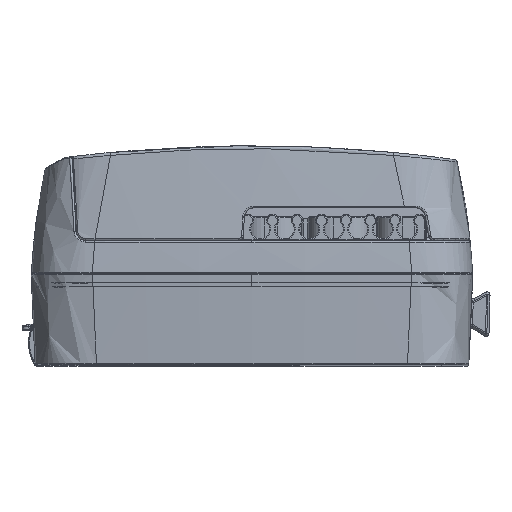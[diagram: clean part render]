
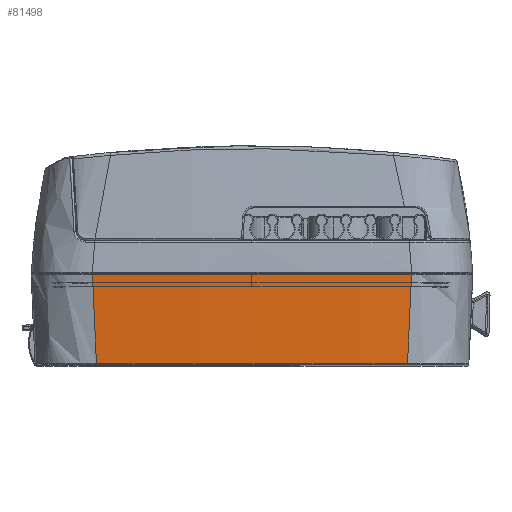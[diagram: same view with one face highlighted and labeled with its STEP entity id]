
A CAD part, top view. The second image highlights one B-rep face of the part: STEP entity #81498.
In plain terms, the highlighted conical face has half-angle 2.5 degrees and reference radius 760.875 mm.
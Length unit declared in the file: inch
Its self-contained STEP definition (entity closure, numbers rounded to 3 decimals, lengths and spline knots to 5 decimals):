
#653 = CARTESIAN_POINT ( 'NONE',  ( 0., -0.01233, -25.13287 ) ) ;
#3664 = CARTESIAN_POINT ( 'NONE',  ( 1.9208, -0.01233, 4.76065 ) ) ;
#4573 = CARTESIAN_POINT ( 'NONE',  ( 1.87291, -1.08354, 4.71683 ) ) ;
#7445 = DIRECTION ( 'NONE',  ( 0., 0., -1. ) ) ;
#13159 = DIRECTION ( 'NONE',  ( 0., -1., 0. ) ) ;
#20546 = EDGE_CURVE ( 'NONE', #34069, #118174, #68074, .T. ) ;
#23106 = DIRECTION ( 'NONE',  ( 0., 1., 0. ) ) ;
#23978 = FACE_OUTER_BOUND ( 'NONE', #112708, .T. ) ;
#27349 = DIRECTION ( 'NONE',  ( 0., 0., -1. ) ) ;
#34069 = VERTEX_POINT ( 'NONE', #52638 ) ;
#36635 = CARTESIAN_POINT ( 'NONE',  ( -1.87291, -1.08354, 4.71683 ) ) ;
#40712 = CARTESIAN_POINT ( 'NONE',  ( -1.9208, -0.01233, 4.76065 ) ) ;
#40801 = CARTESIAN_POINT ( 'NONE',  ( -1.9208, -0.01233, 4.76065 ) ) ;
#41469 = VERTEX_POINT ( 'NONE', #36635 ) ;
#41536 = EDGE_CURVE ( 'NONE', #118174, #90589, #120910, .T. ) ;
#44401 = DIRECTION ( 'NONE',  ( 0., 0., -1. ) ) ;
#49502 = CARTESIAN_POINT ( 'NONE',  ( 1.87291, -1.08354, 4.71683 ) ) ;
#52638 = CARTESIAN_POINT ( 'NONE',  ( 0., -1.08354, 4.77553 ) ) ;
#55071 = VERTEX_POINT ( 'NONE', #40712 ) ;
#56224 = CARTESIAN_POINT ( 'NONE',  ( 0., -0.01233, 4.8223 ) ) ;
#67683 = DIRECTION ( 'NONE',  ( 0., 1., 0. ) ) ;
#68074 = CIRCLE ( 'NONE', #137657, 29.9084 ) ;
#68562 = EDGE_CURVE ( 'NONE', #55071, #41469, #89108, .T. ) ;
#73198 = CARTESIAN_POINT ( 'NONE',  ( -1.892, -0.72689, 4.73123 ) ) ;
#75441 = CONICAL_SURFACE ( 'NONE', #88607, 29.95571, 0.044 ) ;
#76399 = CARTESIAN_POINT ( 'NONE',  ( 0., 0., -25.13287 ) ) ;
#77757 = VERTEX_POINT ( 'NONE', #56224 ) ;
#78082 = DIRECTION ( 'NONE',  ( 0., -1., 0. ) ) ;
#81498 = ADVANCED_FACE ( 'NONE', ( #23978 ), #75441, .T. ) ;
#83507 = EDGE_CURVE ( 'NONE', #90589, #77757, #93222, .T. ) ;
#87832 = DIRECTION ( 'NONE',  ( 0., 0., 1. ) ) ;
#88607 = AXIS2_PLACEMENT_3D ( 'NONE', #76399, #23106, #44401 ) ;
#89008 = CARTESIAN_POINT ( 'NONE',  ( 1.90797, -0.36982, 4.74583 ) ) ;
#89108 = B_SPLINE_CURVE_WITH_KNOTS ( 'NONE', 3,
 ( #40801, #105663, #73198, #114987 ),
 .UNSPECIFIED., .F., .F.,
 ( 4, 4 ),
 ( 0.01117, 0.9829 ),
 .UNSPECIFIED. ) ;
#90589 = VERTEX_POINT ( 'NONE', #107990 ) ;
#90798 = CARTESIAN_POINT ( 'NONE',  ( 0., -1.08354, -25.13287 ) ) ;
#93201 = DIRECTION ( 'NONE',  ( 0., 1., 0. ) ) ;
#93222 = CIRCLE ( 'NONE', #132335, 29.95517 ) ;
#93667 = CARTESIAN_POINT ( 'NONE',  ( 0., -1.08354, -25.13287 ) ) ;
#93889 = EDGE_CURVE ( 'NONE', #41469, #34069, #134657, .T. ) ;
#102075 = EDGE_CURVE ( 'NONE', #77757, #55071, #131631, .T. ) ;
#105631 = AXIS2_PLACEMENT_3D ( 'NONE', #93667, #93201, #7445 ) ;
#105663 = CARTESIAN_POINT ( 'NONE',  ( -1.90797, -0.36982, 4.74583 ) ) ;
#107990 = CARTESIAN_POINT ( 'NONE',  ( 1.9208, -0.01233, 4.76065 ) ) ;
#108021 = ORIENTED_EDGE ( 'NONE', *, *, #83507, .T. ) ;
#108283 = DIRECTION ( 'NONE',  ( 0., 0., 1. ) ) ;
#110846 = CARTESIAN_POINT ( 'NONE',  ( 1.892, -0.72689, 4.73123 ) ) ;
#111894 = ORIENTED_EDGE ( 'NONE', *, *, #68562, .T. ) ;
#112708 = EDGE_LOOP ( 'NONE', ( #114369, #108021, #120752, #111894, #118796, #123509 ) ) ;
#114369 = ORIENTED_EDGE ( 'NONE', *, *, #41536, .T. ) ;
#114987 = CARTESIAN_POINT ( 'NONE',  ( -1.87291, -1.08354, 4.71683 ) ) ;
#116251 = AXIS2_PLACEMENT_3D ( 'NONE', #653, #13159, #108283 ) ;
#118174 = VERTEX_POINT ( 'NONE', #49502 ) ;
#118796 = ORIENTED_EDGE ( 'NONE', *, *, #93889, .T. ) ;
#120752 = ORIENTED_EDGE ( 'NONE', *, *, #102075, .T. ) ;
#120910 = B_SPLINE_CURVE_WITH_KNOTS ( 'NONE', 3,
 ( #4573, #110846, #89008, #3664 ),
 .UNSPECIFIED., .F., .F.,
 ( 4, 4 ),
 ( 0.0171, 0.98883 ),
 .UNSPECIFIED. ) ;
#123509 = ORIENTED_EDGE ( 'NONE', *, *, #20546, .T. ) ;
#130545 = CARTESIAN_POINT ( 'NONE',  ( 0., -0.01233, -25.13287 ) ) ;
#131631 = CIRCLE ( 'NONE', #116251, 29.95517 ) ;
#132335 = AXIS2_PLACEMENT_3D ( 'NONE', #130545, #78082, #87832 ) ;
#134657 = CIRCLE ( 'NONE', #105631, 29.9084 ) ;
#137657 = AXIS2_PLACEMENT_3D ( 'NONE', #90798, #67683, #27349 ) ;
